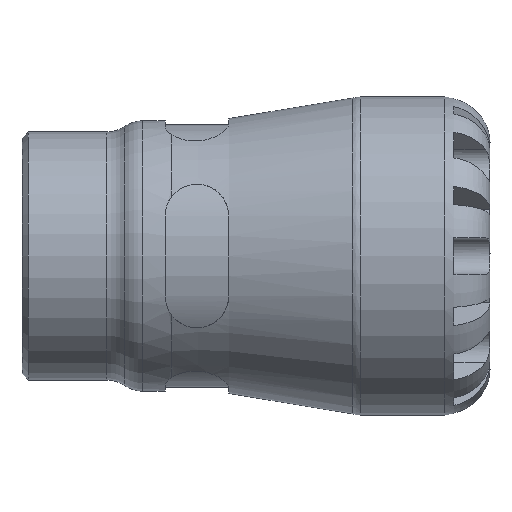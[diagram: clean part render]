
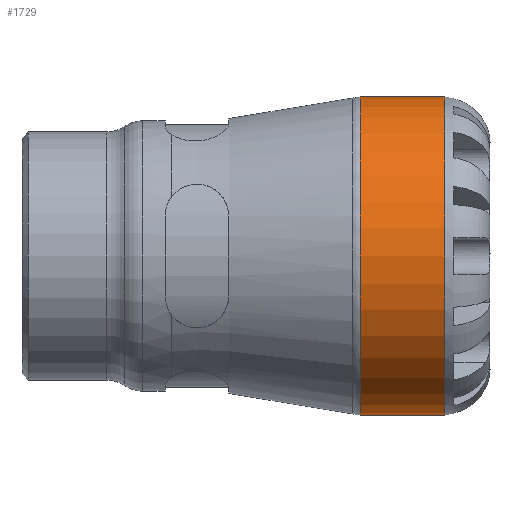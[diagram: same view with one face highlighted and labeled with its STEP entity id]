
A CAD part, front view. The second image highlights one B-rep face of the part: STEP entity #1729.
In plain terms, the highlighted cylindrical face has radius 35 mm (diameter 70 mm), a full revolution.
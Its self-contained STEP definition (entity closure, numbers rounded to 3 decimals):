
#34=FACE_BOUND('',#412,.T.);
#295=FACE_OUTER_BOUND('',#411,.T.);
#411=EDGE_LOOP('',(#1230));
#412=EDGE_LOOP('',(#1231));
#547=CIRCLE('',#1891,35.);
#548=CIRCLE('',#1893,35.);
#733=VERTEX_POINT('',#3000);
#734=VERTEX_POINT('',#3003);
#915=EDGE_CURVE('',#733,#733,#547,.T.);
#916=EDGE_CURVE('',#734,#734,#548,.T.);
#1230=ORIENTED_EDGE('',*,*,#916,.F.);
#1231=ORIENTED_EDGE('',*,*,#915,.F.);
#1573=CYLINDRICAL_SURFACE('',#1892,35.);
#1729=ADVANCED_FACE('',(#295,#34),#1573,.T.);
#1891=AXIS2_PLACEMENT_3D('',#3001,#2195,#2196);
#1892=AXIS2_PLACEMENT_3D('',#3002,#2197,#2198);
#1893=AXIS2_PLACEMENT_3D('',#3004,#2199,#2200);
#2195=DIRECTION('center_axis',(-1.,0.,0.));
#2196=DIRECTION('ref_axis',(0.,-1.,0.));
#2197=DIRECTION('center_axis',(1.,0.,0.));
#2198=DIRECTION('ref_axis',(0.,1.,0.));
#2199=DIRECTION('center_axis',(1.,0.,0.));
#2200=DIRECTION('ref_axis',(0.,0.,-1.));
#3000=CARTESIAN_POINT('',(74.495,35.,0.));
#3001=CARTESIAN_POINT('Origin',(74.495,0.,0.));
#3002=CARTESIAN_POINT('Origin',(83.3,0.,0.));
#3003=CARTESIAN_POINT('',(93.,35.,0.));
#3004=CARTESIAN_POINT('Origin',(93.,0.,0.));
